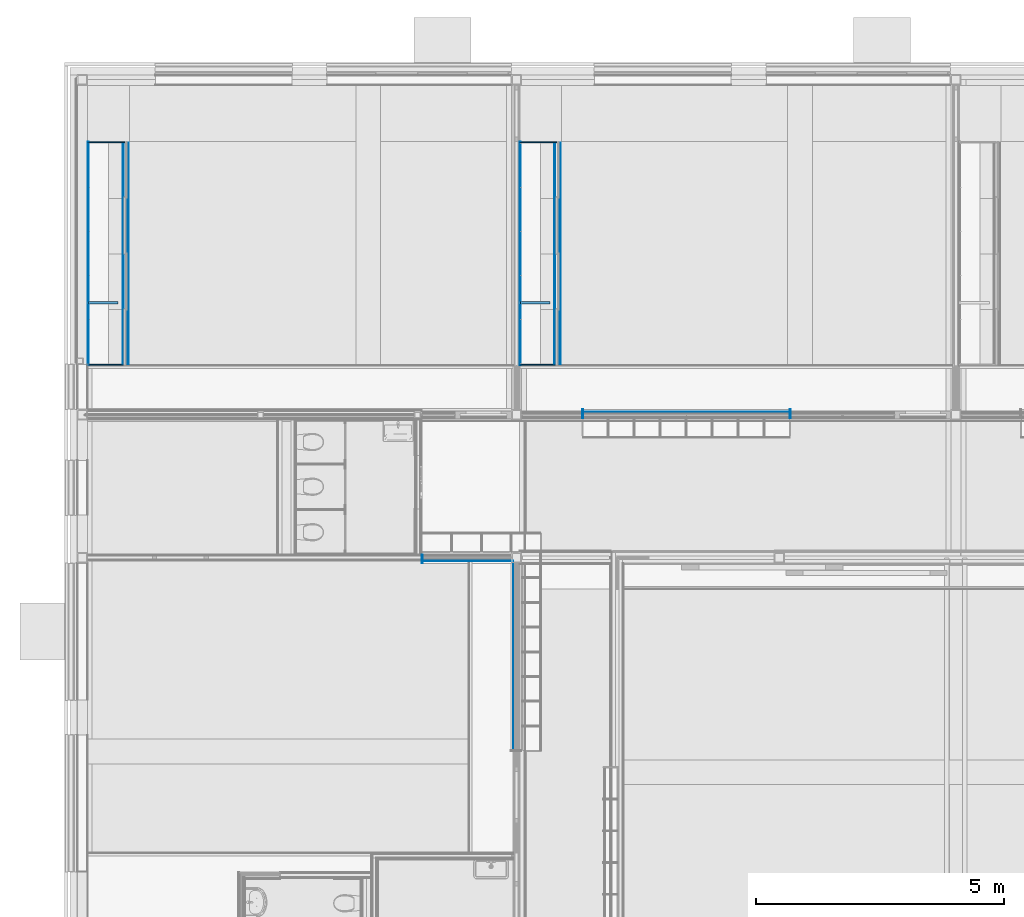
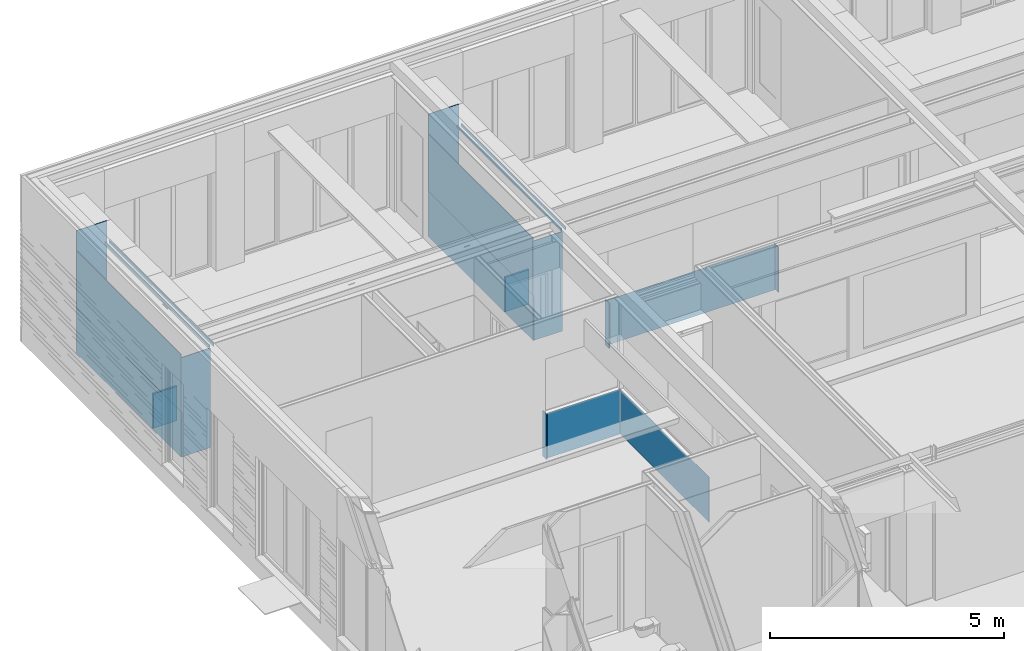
# One storey, part 25 of 165: 20 walls.
"""IFC2X3 building model written with IfcOpenShell, lengths in millimetres."""

import ifcopenshell
import ifcopenshell.guid

model = None  # the IFC model being written
_history = None  # IfcOwnerHistory: only IFC2X3 demands one
_inside = {}  # id of a spatial element -> (the spatial element, [elements in it])
_under = {}  # id of a project, library or spatial element -> (it, [spatial elements below it])
_declared = {}  # id of a project -> (the project, [libraries it declares])
_typed = {}  # id of a type object -> (the type object, [elements of that type])
_made_of = {}  # id of a material, layer set ... -> (it, [elements and type objects made of it])


def new_model(schema):
    """Start an empty IFC model of exactly this schema.

    Asked for "IFC4X3", IfcOpenShell would pick the latest addendum, in which some entities
    have other attributes; the version numbers below select the first issue.
    IFC2X3 requires an IfcOwnerHistory on every rooted entity: one is made here for all.
    """
    global model, _history
    if schema == "IFC4X3":
        model = ifcopenshell.file(schema_version=(4, 3, 0, 0))
    else:
        model = ifcopenshell.file(schema=schema)
    _inside.clear()
    _under.clear()
    _declared.clear()
    _typed.clear()
    _made_of.clear()
    _history = None
    if model.schema == "IFC2X3":
        org = make("IfcOrganization", Name="unknown")
        user = make(
            "IfcPersonAndOrganization",
            ThePerson=make("IfcPerson", FamilyName="unknown"),
            TheOrganization=org,
        )
        app = make(
            "IfcApplication",
            ApplicationDeveloper=org,
            Version="unknown",
            ApplicationFullName="unknown",
            ApplicationIdentifier="unknown",
        )
        _history = make(
            "IfcOwnerHistory",
            OwningUser=user,
            OwningApplication=app,
            ChangeAction="ADDED",
            CreationDate=0,
        )
    return model


def make(cls, **values):
    """One entity of the class cls with the attributes given. An attribute that is None is left unset."""
    return model.create_entity(
        cls, **{name: value for name, value in values.items() if value is not None}
    )


def entity(cls, *values):
    """Any entity or typed value of the class cls, its attributes in the order of the schema. None: left unset."""
    e = model.create_entity(cls)
    for i, value in enumerate(values):
        if value is not None:
            e[i] = value
    return e


def rooted(cls, **values):
    """An entity with a GlobalId (a new one), such as an element, a storey or a relation."""
    return make(cls, GlobalId=ifcopenshell.guid.new(), OwnerHistory=_history, **values)


def si_unit(unit_type, name, prefix=None):
    """IfcSIUnit, for example si_unit("LENGTHUNIT", "METRE", prefix="MILLI")."""
    return make("IfcSIUnit", UnitType=unit_type, Prefix=prefix, Name=name)


def converted_unit(unit_type, name, factor, base, dimensions=None, offset=None):
    """IfcConversionBasedUnit, such as the inch: factor (a typed value) times the base unit."""
    return make(
        "IfcConversionBasedUnit"
        if offset is None
        else "IfcConversionBasedUnitWithOffset",
        ConversionOffset=offset,
        Dimensions=None
        if dimensions is None
        else entity("IfcDimensionalExponents", *dimensions),
        UnitType=unit_type,
        Name=name,
        ConversionFactor=make(
            "IfcMeasureWithUnit", ValueComponent=factor, UnitComponent=base
        ),
    )


def derived_unit(unit_type, elements):
    """IfcDerivedUnit: a product of units, each with its exponent."""
    return make(
        "IfcDerivedUnit",
        Elements=[
            make("IfcDerivedUnitElement", Unit=unit, Exponent=power)
            for unit, power in elements
        ],
        UnitType=unit_type,
    )


def money_unit(currency):
    """IfcMonetaryUnit."""
    return make("IfcMonetaryUnit", Currency=currency)


def assignment(units):
    """IfcUnitAssignment: the units of a project."""
    return None if units is None else make("IfcUnitAssignment", Units=units)


def point(xyz):
    """IfcCartesianPoint."""
    return None if xyz is None else make("IfcCartesianPoint", Coordinates=xyz)


def direction(xyz):
    """IfcDirection."""
    return None if xyz is None else make("IfcDirection", DirectionRatios=xyz)


def frame(location, z_axis=None, x_axis=None):
    """IfcAxis2Placement3D, a coordinate frame: its origin and axes. An axis left out is left unset."""
    return make(
        "IfcAxis2Placement3D",
        Location=point(location),
        Axis=direction(z_axis),
        RefDirection=direction(x_axis),
    )


def origin_with_axes():
    """The frame at (0, 0, 0) with the z axis (0, 0, 1) and the x axis (1, 0, 0) written out."""
    return frame((0.0, 0.0, 0.0), z_axis=(0.0, 0.0, 1.0), x_axis=(1.0, 0.0, 0.0))


def place(relative_to, where):
    """IfcLocalPlacement: puts the frame where relative to a parent placement (None: the world)."""
    return make(
        "IfcLocalPlacement", PlacementRelTo=relative_to, RelativePlacement=where
    )


def context(
    kind, dimensions, precision=None, world=None, true_north=None, identifier=None
):
    """IfcGeometricRepresentationContext, for example the 3D "Model" context."""
    return make(
        "IfcGeometricRepresentationContext",
        ContextIdentifier=identifier,
        ContextType=kind,
        CoordinateSpaceDimension=dimensions,
        Precision=precision,
        WorldCoordinateSystem=world,
        TrueNorth=true_north,
    )


def subcontext(parent, identifier, kind, view, scale=None):
    """IfcGeometricRepresentationSubContext, for example "Body" below "Model"."""
    return make(
        "IfcGeometricRepresentationSubContext",
        ContextIdentifier=identifier,
        ContextType=kind,
        ParentContext=parent,
        TargetScale=scale,
        TargetView=view,
    )


def project(units=None, contexts=None):
    """IfcProject with its units and contexts."""
    return rooted(
        "IfcProject",
        Name="project",
        RepresentationContexts=contexts,
        UnitsInContext=assignment(units),
    )


def spatial(cls, under=None, at=None, **own):
    """A site, building, storey or space (cls), placed at a placement, below another one or the project."""
    s = rooted(cls, ObjectPlacement=at, **own)
    if under is not None:
        _under.setdefault(under.id(), (under, []))[1].append(s)
    return s


def faces_of(points, faces, orient=None, outer=None):
    """IfcFace entities. A face is a list of loops; a loop is a list of indices into points, from 0.

    orient and outer hold one flag for each loop. By default every Orientation is true, the
    first loop of a face is its IfcFaceOuterBound and the others are IfcFaceBound.
    """
    made = []
    for i, loops in enumerate(faces):
        bounds = []
        for j, loop in enumerate(loops):
            is_outer = j == 0 if outer is None else outer[i][j]
            bounds.append(
                make(
                    "IfcFaceOuterBound" if is_outer else "IfcFaceBound",
                    Bound=make("IfcPolyLoop", Polygon=[points[k] for k in loop]),
                    Orientation=True if orient is None else orient[i][j],
                )
            )
        made.append(make("IfcFace", Bounds=bounds))
    return made


def faceted_brep(points, faces, orient=None, outer=None, voids=None):
    """IfcFacetedBrep: a solid bounded by flat faces; with voids (closed shells), ...WithVoids."""
    shared = [point(p) for p in points]
    hull = make("IfcClosedShell", CfsFaces=faces_of(shared, faces, orient, outer))
    if voids is None:
        return make("IfcFacetedBrep", Outer=hull)
    return make(
        "IfcFacetedBrepWithVoids",
        Outer=hull,
        Voids=[
            make(cls, CfsFaces=faces_of(shared, fs, o, b)) for cls, fs, o, b in voids
        ],
    )


def shape(context_of_items, identifier, shape_type, items):
    """IfcShapeRepresentation: the items that make up one representation, for example the "Body"."""
    return make(
        "IfcShapeRepresentation",
        ContextOfItems=context_of_items,
        RepresentationIdentifier=identifier,
        RepresentationType=shape_type,
        Items=items,
    )


def material(Name=None, Category=None):
    """IfcMaterial."""
    return make("IfcMaterial", Name=Name, Category=Category)


def made_of(thing, what):
    """Note that an element or type object is made of a material, layer set ...; save() writes the relation."""
    if what is not None:
        _made_of.setdefault(what.id(), (what, []))[1].append(thing)
    return thing


def type_object(cls, material=None, **own):
    """A type object (cls), such as IfcWallType, which elements share."""
    return made_of(rooted(cls, **own), material)


def element(
    cls,
    number,
    at=None,
    inside=None,
    cuts=None,
    type_object=None,
    material=None,
    context=None,
    identifier="Body",
    shape_type=None,
    held_by="IfcProductDefinitionShape",
    body=None,
    shapes=None,
    **own,
):
    """One element of the class cls, such as IfcWall. Its Tag is "e" and its number.

    at: its placement. inside: the storey or other place that contains it. cuts: it is an
    opening in that element (IfcRelVoidsElement). A single representation is given by context,
    identifier, shape_type and body (its items); several are given by shapes. held_by: the class
    of the entity that holds the representations. save() writes the other relations.
    """
    e = rooted(cls, Tag="e%d" % number, ObjectPlacement=at, **own)
    if body is not None:
        shapes = [shape(context, identifier, shape_type, body)]
    if shapes is not None:
        e.Representation = make(held_by, Representations=shapes)
    if inside is not None:
        _inside.setdefault(inside.id(), (inside, []))[1].append(e)
    if cuts is not None:
        rooted(
            "IfcRelVoidsElement", RelatingBuildingElement=cuts, RelatedOpeningElement=e
        )
    if type_object is not None:
        _typed.setdefault(type_object.id(), (type_object, []))[1].append(e)
    return made_of(e, material)


def aggregate(whole, parts):
    """IfcRelAggregates: a whole, such as a stair, and the parts it consists of."""
    return rooted("IfcRelAggregates", RelatingObject=whole, RelatedObjects=parts)


def save(model, path):
    """Write the relations noted so far, then the file.

    IfcRelAggregates (storeys below a building ...), IfcRelContainedInSpatialStructure (elements
    in a storey), IfcRelDefinesByType, IfcRelAssociatesMaterial and IfcRelDeclares: one each for
    every whole, place, type object, material and project.
    """
    for whole, parts in _under.values():
        aggregate(whole, parts)
    for where, things in _inside.values():
        rooted(
            "IfcRelContainedInSpatialStructure",
            RelatedElements=things,
            RelatingStructure=where,
        )
    for kind, things in _typed.values():
        rooted("IfcRelDefinesByType", RelatedObjects=things, RelatingType=kind)
    for what, things in _made_of.values():
        rooted("IfcRelAssociatesMaterial", RelatedObjects=things, RelatingMaterial=what)
    for by, libraries in _declared.values():
        rooted("IfcRelDeclares", RelatingContext=by, RelatedDefinitions=libraries)
    model.write(path)


model = new_model("IFC2X3")

# Units and contexts
model_context = context("Model", 3, precision=0.01, world=origin_with_axes(), true_north=direction((0.0, 1.0)))
body_context = subcontext(model_context, "Body", "Model", "MODEL_VIEW")
ifc_project = project(units=[si_unit("LENGTHUNIT", "METRE", prefix="MILLI"), si_unit("AREAUNIT", "SQUARE_METRE"), si_unit("VOLUMEUNIT", "CUBIC_METRE"), converted_unit("PLANEANGLEUNIT", "DEGREE", entity("IfcPlaneAngleMeasure", 0.0174532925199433), si_unit("PLANEANGLEUNIT", "RADIAN"), dimensions=[0, 0, 0, 0, 0, 0, 0]), money_unit("EUR"), converted_unit("TIMEUNIT", "Year", entity("IfcTimeMeasure", 31556926.0), si_unit("TIMEUNIT", "SECOND"), dimensions=[0, 0, 1, 0, 0, 0, 0]), si_unit("MASSUNIT", "GRAM", prefix="KILO"), si_unit("THERMODYNAMICTEMPERATUREUNIT", "DEGREE_CELSIUS"), si_unit("LUMINOUSINTENSITYUNIT", "LUMEN"), si_unit("ENERGYUNIT", "JOULE", prefix="MEGA"), derived_unit("THERMALCONDUCTANCEUNIT", [(si_unit("POWERUNIT", "WATT"), 1), (si_unit("LENGTHUNIT", "METRE"), -1), (si_unit("THERMODYNAMICTEMPERATUREUNIT", "KELVIN"), -1)]), derived_unit("SPECIFICHEATCAPACITYUNIT", [(si_unit("ENERGYUNIT", "JOULE"), 1), (si_unit("MASSUNIT", "GRAM", prefix="KILO"), -1), (si_unit("THERMODYNAMICTEMPERATUREUNIT", "KELVIN"), -1)]), derived_unit("MASSDENSITYUNIT", [(si_unit("MASSUNIT", "GRAM", prefix="KILO"), 1), (si_unit("VOLUMEUNIT", "CUBIC_METRE"), -1)])], contexts=[model_context])

# Site, building, storey
site_placement = place(None, origin_with_axes())
site = spatial("IfcSite", under=ifc_project, at=site_placement, Name="Site", CompositionType="ELEMENT")
building_placement = place(site_placement, origin_with_axes())
building = spatial("IfcBuilding", under=site, at=building_placement, Name="Naam gebouw", CompositionType="ELEMENT")
storey_placement = place(building_placement, origin_with_axes())
storey = spatial("IfcBuildingStorey", under=building, at=storey_placement, Name="Begane grond", CompositionType="ELEMENT", Elevation=0.0)

# Walls
ifc_material_1 = material(Name="Kurk")
wall_type_1 = type_object("IfcWallType", Name="Kurk 6", PredefinedType="NOTDEFINED")
wall_1_placement = place(storey_placement, frame((6960.000053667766, 19387.49979215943, 0.0), z_axis=(0.0, 0.0, 1.0), x_axis=(1.0, 0.0, 0.0)))
element("IfcWall", 1, at=wall_1_placement, inside=storey, type_object=wall_type_1, material=ifc_material_1, Name="21_Wand-x", context=body_context, shape_type="Brep", body=[
    faceted_brep([(1821.500260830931, -5.999999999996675, 1180.0), (1821.500260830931, 0.0, 1180.0), (0.0, 0.0, 1180.0), (0.0, -6.000000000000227, 1180.0), (1821.500260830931, -5.999999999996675, 0.0), (1821.500260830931, 0.0, 0.0), (0.0, 0.0, 0.0), (0.0, -6.000000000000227, 0.0)], [[[0, 1, 2, 3]], [[1, 0, 4, 5]], [[1, 5, 6, 2]], [[7, 3, 2, 6]], [[4, 0, 3, 7]], [[5, 4, 7, 6]]]),
])
wall_2_placement = place(storey_placement, frame((8787.500314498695, 15569.99580850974, 0.0), z_axis=(0.0, 0.0, 1.0), x_axis=(0.0, 1.0, 0.0)))
element("IfcWall", 2, at=wall_2_placement, inside=storey, type_object=wall_type_1, material=ifc_material_1, Name="21_Wand-x", context=body_context, shape_type="Brep", body=[
    faceted_brep([(3817.503983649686, 6.000000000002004, 0.0), (3817.503983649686, 0.0, 0.0), (0.0, 0.0, 0.0), (0.0, 6.000000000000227, 0.0), (3817.503983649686, 6.000000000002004, 1180.0), (3817.503983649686, 0.0, 1180.0), (0.0, 0.0, 1180.0), (0.0, 6.000000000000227, 1180.0)], [[[0, 1, 2, 3]], [[1, 0, 4, 5]], [[1, 5, 6, 2]], [[7, 3, 2, 6]], [[4, 0, 3, 7]], [[5, 4, 7, 6]]]),
])
wall_3_placement = place(storey_placement, frame((10190.00009530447, 22387.47926947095, 0.0), z_axis=(0.0, 0.0, 1.0), x_axis=(1.0, 0.0, 0.0)))
element("IfcWall", 3, at=wall_3_placement, inside=storey, type_object=wall_type_1, material=ifc_material_1, Name="21_Wand-x", context=body_context, shape_type="Brep", body=[
    faceted_brep([(0.0, 6.000000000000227, 0.0), (4159.999904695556, 6.000000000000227, 0.0), (4159.999904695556, 0.0, 0.0), (0.0, 0.0, 0.0), (0.0, 6.000000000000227, 1180.0), (4159.999904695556, 6.000000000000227, 1180.0), (4159.999904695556, 0.0, 1180.0), (0.0, 0.0, 1180.0)], [[[0, 1, 2, 3]], [[4, 5, 1, 0]], [[2, 1, 5, 6]], [[3, 2, 6, 7]], [[4, 0, 3, 7]], [[7, 6, 5, 4]]]),
])
ifc_material_2 = material(Name="Hout - Multiplex")
wall_type_2 = type_object("IfcWallType", Name="Hout - Multiplex 20", PredefinedType="NOTDEFINED")
wall_4_placement = place(storey_placement, frame((6939.999720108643, 19512.49981121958, 0.0), z_axis=(0.0, 0.0, 1.0), x_axis=(1.906052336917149e-06, -0.9999999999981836, 0.0)))
element("IfcWall", 4, at=wall_4_placement, inside=storey, type_object=wall_type_2, material=ifc_material_2, Name="21_Wand-x", context=body_context, shape_type="Brep", body=[
    faceted_brep([(0.0, 0.0, 0.0), (6.359357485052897e-10, 0.0003335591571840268, 1180.0), (0.0, 20.00000000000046, 1180.0), (0.0, 20.00000000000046, 0.0), (174.9999999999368, 0.0, 0.0), (174.9999999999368, 0.0, 1180.0), (175.0000381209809, 19.99999999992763, 1180.0), (174.9999999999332, 19.99999999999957, 0.0)], [[[0, 1, 2, 3]], [[4, 5, 1, 0]], [[5, 6, 2, 1]], [[3, 2, 6, 7]], [[0, 3, 7, 4]], [[7, 6, 5, 4]]]),
])
wall_5_placement = place(storey_placement, frame((14370.00000000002, 22262.47925041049, 0.0), z_axis=(0.0, 0.0, 1.0), x_axis=(0.0, 1.0, 0.0)))
element("IfcWall", 5, at=wall_5_placement, inside=storey, type_object=wall_type_2, material=ifc_material_2, Name="21_Wand-x", context=body_context, shape_type="Brep", body=[
    faceted_brep([(174.9999999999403, 19.99999999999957, 0.0), (174.9999999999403, 19.99999999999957, 1180.000000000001), (174.9999999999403, 0.0, 1180.000000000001), (174.9999999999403, 0.0, 0.0), (0.0, 19.99999999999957, 0.0), (0.0, 19.99999999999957, 1180.000000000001), (0.0, 0.0, 1180.000000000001), (0.0, 0.0, 0.0)], [[[0, 1, 2, 3]], [[4, 5, 1, 0]], [[5, 6, 2, 1]], [[3, 2, 6, 7]], [[7, 4, 0, 3]], [[7, 6, 5, 4]]]),
])
wall_6_placement = place(storey_placement, frame((10169.99976174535, 22262.48325312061, 0.0), z_axis=(0.0, 0.0, 1.0), x_axis=(1.906052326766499e-06, 0.9999999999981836, 0.0)))
element("IfcWall", 6, at=wall_6_placement, inside=storey, type_object=wall_type_2, material=ifc_material_2, Name="21_Wand-x", context=body_context, shape_type="Brep", body=[
    faceted_brep([(174.9999999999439, 0.0, 0.0), (174.9959972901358, -7.629452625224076e-09, 1180.000000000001), (174.9960354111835, -20.00000000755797, 1180.000000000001), (174.9999999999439, -20.00000000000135, 0.0), (0.0, 0.0, 0.0), (-0.00400270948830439, -0.0003335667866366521, 1180.000000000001), (-0.003964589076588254, -20.00000000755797, 1180.000000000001), (0.0, -20.00000000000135, 0.0)], [[[0, 1, 2, 3]], [[4, 5, 1, 0]], [[5, 6, 2, 1]], [[3, 2, 6, 7]], [[7, 4, 0, 3]], [[7, 6, 5, 4]]]),
])
wall_7_placement = place(storey_placement, frame((8912.500000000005, 23347.99984707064, 2.0), z_axis=(0.0, 0.0, 1.0), x_axis=(0.0, 1.0, 0.0)))
element("IfcWall", 7, at=wall_7_placement, inside=storey, type_object=wall_type_2, material=ifc_material_2, Name="21_Wand-x", context=body_context, shape_type="Brep", body=[
    faceted_brep([(4480.0, -19.99999999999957, 1180.0), (4480.0, 0.0, 1180.0), (-19.99999999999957, 0.0, 1180.0), (-19.99999999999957, -19.99999999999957, 1180.0), (4480.0, -19.99999999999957, 0.0), (4480.0, 0.0, 0.0), (-19.99999999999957, 0.0, 0.0), (-19.99999999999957, -19.99999999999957, 0.0)], [[[0, 1, 2, 3]], [[1, 0, 4, 5]], [[1, 5, 6, 2]], [[7, 3, 2, 6]], [[4, 0, 3, 7]], [[5, 4, 7, 6]]]),
])
wall_8_placement = place(storey_placement, frame((9662.500000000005, 27807.99984707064, 0.0), z_axis=(0.0, 0.0, 1.0), x_axis=(-1.0, 0.0, 0.0)))
element("IfcWall", 8, at=wall_8_placement, inside=storey, type_object=wall_type_2, material=ifc_material_2, Name="21_Wand-x", context=body_context, shape_type="Brep", body=[
    faceted_brep([(750.0, -19.99999999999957, 0.0), (750.0, -19.99999999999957, 2.000000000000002), (730.0000000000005, -19.99999999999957, 2.000000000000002), (730.0000000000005, -19.99999999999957, 1182.0), (750.0, -19.99999999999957, 1182.0), (750.0, -19.99999999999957, 3200.0), (0.0, -19.99999999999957, 3200.0), (0.0, -19.99999999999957, 0.0), (750.0, 0.0, 0.0), (750.0, 0.0, 2.000000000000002), (730.0000000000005, 0.0, 2.000000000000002), (730.0000000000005, 0.0, 1182.0), (750.0, 0.0, 1182.0), (750.0, 0.0, 3200.0), (0.0, 0.0, 3200.0), (0.0, 0.0, 0.0)], [[[0, 1, 2, 3, 4, 5, 6, 7]], [[8, 9, 1, 0]], [[10, 2, 1, 9]], [[11, 3, 2, 10]], [[12, 4, 3, 11]], [[5, 4, 12, 13]], [[14, 6, 5, 13]], [[14, 15, 7, 6]], [[7, 15, 8, 0]], [[11, 10, 9, 8, 15, 14, 13, 12]]]),
])
wall_9_placement = place(storey_placement, frame((9632.500000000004, 23347.99984707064, 0.0), z_axis=(0.0, 0.0, 1.0), x_axis=(-1.0, 0.0, 0.0)))
element("IfcWall", 9, at=wall_9_placement, inside=storey, type_object=wall_type_2, material=ifc_material_2, Name="21_Wand-x", context=body_context, shape_type="Brep", body=[
    faceted_brep([(719.9999999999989, 0.0, 0.0), (719.9999999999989, 0.0, 2.000000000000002), (699.9999999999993, 0.0, 2.000000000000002), (699.9999999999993, 0.0, 1182.0), (719.9999999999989, 0.0, 1182.0), (719.9999999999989, 0.0, 2600.0), (0.0, 0.0, 2600.0), (0.0, 0.0, 0.0), (719.9999999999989, 19.99999999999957, 0.0), (719.9999999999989, 19.99999999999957, 2.000000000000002), (699.9999999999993, 19.99999999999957, 2.000000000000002), (699.9999999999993, 19.99999999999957, 1182.0), (719.9999999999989, 19.99999999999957, 1182.0), (719.9999999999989, 19.99999999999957, 2600.0), (0.0, 19.99999999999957, 2600.0), (0.0, 19.99999999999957, 0.0)], [[[0, 1, 2, 3, 4, 5, 6, 7]], [[8, 9, 1, 0]], [[10, 2, 1, 9]], [[11, 3, 2, 10]], [[12, 4, 3, 11]], [[5, 4, 12, 13]], [[14, 6, 5, 13]], [[7, 6, 14, 15]], [[7, 15, 8, 0]], [[11, 10, 9, 8, 15, 14, 13, 12]]]),
])
wall_10_placement = place(storey_placement, frame((9719.500000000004, 23347.99984707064, 2600.0), z_axis=(0.0, 0.0, 1.0), x_axis=(0.0, 1.0, 0.0)))
element("IfcWall", 10, at=wall_10_placement, inside=storey, type_object=wall_type_2, material=ifc_material_2, Name="21_Wand-x", context=body_context, shape_type="Brep", body=[
    faceted_brep([(0.0, -19.99999999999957, 69.99999999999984), (4460.000000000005, -19.99999999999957, 69.99999999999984), (4460.000000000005, 0.0, 69.99999999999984), (0.0, 0.0, 69.99999999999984), (0.0, -19.99999999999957, 0.0), (4460.000000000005, -19.99999999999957, 0.0), (4460.000000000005, 0.0, 0.0), (0.0, 0.0, 0.0)], [[[0, 1, 2, 3]], [[4, 5, 1, 0]], [[2, 1, 5, 6]], [[3, 2, 6, 7]], [[4, 0, 3, 7]], [[7, 6, 5, 4]]]),
])
wall_11_placement = place(storey_placement, frame((9614.500000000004, 23347.99984707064, 2600.0), z_axis=(0.0, 0.0, 1.0), x_axis=(0.0, 1.0, 0.0)))
element("IfcWall", 11, at=wall_11_placement, inside=storey, type_object=wall_type_2, material=ifc_material_2, Name="21_Wand-x", context=body_context, shape_type="Brep", body=[
    faceted_brep([(4460.000000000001, -19.99999999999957, 69.99999999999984), (4460.000000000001, 0.0, 69.99999999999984), (0.0, 0.0, 69.99999999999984), (0.0, -19.99999999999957, 69.99999999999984), (4460.000000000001, -19.99999999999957, 0.0), (4460.000000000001, 0.0, 0.0), (0.0, 0.0, 0.0), (0.0, -19.99999999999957, 0.0)], [[[0, 1, 2, 3]], [[1, 0, 4, 5]], [[1, 5, 6, 2]], [[7, 3, 2, 6]], [[4, 0, 3, 7]], [[5, 4, 7, 6]]]),
])
wall_12_placement = place(storey_placement, frame((8914.500000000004, 23347.99984707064, 1182.0), z_axis=(0.0, 0.0, 1.0), x_axis=(0.0, 1.0, 0.0)))
element("IfcWall", 12, at=wall_12_placement, inside=storey, type_object=wall_type_2, material=ifc_material_2, Name="21_Wand-x", context=body_context, shape_type="Brep", body=[
    faceted_brep([(0.0, 0.0, 1488.0), (0.0, 0.0, 1418.0), (0.0, -19.99999999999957, 1418.0), (0.0, -19.99999999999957, 1488.0), (4460.000000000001, 0.0, 0.0), (0.0, 0.0, 0.0), (4460.000000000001, 0.0, 1488.0), (0.0, -19.99999999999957, 0.0), (4460.000000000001, -19.99999999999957, 0.0), (4460.000000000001, -19.99999999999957, 1488.0)], [[[0, 1, 2, 3]], [[4, 5, 1, 0, 6]], [[5, 7, 2, 1]], [[3, 2, 7, 8, 9]], [[9, 6, 0, 3]], [[8, 7, 5, 4]], [[6, 9, 8, 4]]]),
])
wall_13_placement = place(storey_placement, frame((214.0000000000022, 23347.99984707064, 2.0), z_axis=(0.0, 0.0, 1.0), x_axis=(0.0, 1.0, 0.0)))
element("IfcWall", 13, at=wall_13_placement, inside=storey, type_object=wall_type_2, material=ifc_material_2, Name="21_Wand-x", context=body_context, shape_type="Brep", body=[
    faceted_brep([(4480.0, -19.99999999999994, 1180.0), (4480.0, 0.0, 1180.0), (-19.99999999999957, 0.0, 1180.0), (-19.99999999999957, -19.99999999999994, 1180.0), (4480.0, -19.99999999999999, 0.0), (4480.0, 0.0, 0.0), (-19.99999999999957, 0.0, 0.0), (-19.99999999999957, -19.99999999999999, 0.0)], [[[0, 1, 2, 3]], [[1, 0, 4, 5]], [[1, 5, 6, 2]], [[7, 3, 2, 6]], [[4, 0, 3, 7]], [[5, 4, 7, 6]]]),
])
wall_14_placement = place(storey_placement, frame((964.0000000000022, 27807.99984707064, 0.0), z_axis=(0.0, 0.0, 1.0), x_axis=(-1.0, 0.0, 0.0)))
element("IfcWall", 14, at=wall_14_placement, inside=storey, type_object=wall_type_2, material=ifc_material_2, Name="21_Wand-x", context=body_context, shape_type="Brep", body=[
    faceted_brep([(750.0, -19.99999999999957, 0.0), (750.0, -19.99999999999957, 2.000000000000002), (730.0, -19.99999999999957, 2.000000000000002), (730.0000000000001, -19.99999999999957, 1182.0), (750.0000000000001, -19.99999999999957, 1182.0), (750.0, -19.99999999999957, 3200.0), (0.0, -19.99999999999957, 3200.0), (0.0, -19.99999999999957, 0.0), (750.0, 0.0, 0.0), (750.0, 0.0, 2.000000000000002), (730.0, 0.0, 2.000000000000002), (730.0000000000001, 0.0, 1182.0), (750.0000000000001, 0.0, 1182.0), (750.0, 0.0, 3200.0), (0.0, 0.0, 3200.0), (0.0, 0.0, 0.0)], [[[0, 1, 2, 3, 4, 5, 6, 7]], [[8, 9, 1, 0]], [[10, 2, 1, 9]], [[11, 3, 2, 10]], [[12, 4, 3, 11]], [[5, 4, 12, 13]], [[14, 6, 5, 13]], [[14, 15, 7, 6]], [[7, 15, 8, 0]], [[11, 10, 9, 8, 15, 14, 13, 12]]]),
])
wall_15_placement = place(storey_placement, frame((934.000000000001, 23347.99984707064, 0.0), z_axis=(0.0, 0.0, 1.0), x_axis=(-1.0, 0.0, 0.0)))
element("IfcWall", 15, at=wall_15_placement, inside=storey, type_object=wall_type_2, material=ifc_material_2, Name="21_Wand-x", context=body_context, shape_type="Brep", body=[
    faceted_brep([(719.9999999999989, 0.0, 0.0), (719.9999999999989, 0.0, 2.000000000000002), (699.9999999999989, 0.0, 2.000000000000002), (699.999999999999, 0.0, 1182.0), (719.999999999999, 0.0, 1182.0), (719.9999999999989, 0.0, 2600.0), (0.0, 0.0, 2600.0), (0.0, 0.0, 0.0), (719.9999999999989, 19.99999999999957, 0.0), (719.9999999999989, 19.99999999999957, 2.000000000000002), (699.9999999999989, 19.99999999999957, 2.000000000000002), (699.999999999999, 19.99999999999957, 1182.0), (719.999999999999, 19.99999999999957, 1182.0), (719.9999999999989, 19.99999999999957, 2600.0), (0.0, 19.99999999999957, 2600.0), (0.0, 19.99999999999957, 0.0)], [[[0, 1, 2, 3, 4, 5, 6, 7]], [[8, 9, 1, 0]], [[10, 2, 1, 9]], [[11, 3, 2, 10]], [[12, 4, 3, 11]], [[5, 4, 12, 13]], [[14, 6, 5, 13]], [[7, 6, 14, 15]], [[7, 15, 8, 0]], [[11, 10, 9, 8, 15, 14, 13, 12]]]),
])
wall_16_placement = place(storey_placement, frame((1021.000000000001, 23347.99984707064, 2600.0), z_axis=(0.0, 0.0, 1.0), x_axis=(0.0, 1.0, 0.0)))
element("IfcWall", 16, at=wall_16_placement, inside=storey, type_object=wall_type_2, material=ifc_material_2, Name="21_Wand-x", context=body_context, shape_type="Brep", body=[
    faceted_brep([(0.0, -20.00000000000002, 69.99999999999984), (4460.000000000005, -20.00000000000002, 69.99999999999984), (4460.000000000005, 0.0, 69.99999999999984), (0.0, 0.0, 69.99999999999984), (0.0, -20.00000000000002, 0.0), (4460.000000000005, -20.00000000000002, 0.0), (4460.000000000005, 0.0, 0.0), (0.0, 0.0, 0.0)], [[[0, 1, 2, 3]], [[4, 5, 1, 0]], [[2, 1, 5, 6]], [[3, 2, 6, 7]], [[4, 0, 3, 7]], [[7, 6, 5, 4]]]),
])
wall_17_placement = place(storey_placement, frame((916.0000000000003, 23347.99984707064, 2600.0), z_axis=(0.0, 0.0, 1.0), x_axis=(0.0, 1.0, 0.0)))
element("IfcWall", 17, at=wall_17_placement, inside=storey, type_object=wall_type_2, material=ifc_material_2, Name="21_Wand-x", context=body_context, shape_type="Brep", body=[
    faceted_brep([(4460.000000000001, -20.00000000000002, 69.99999999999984), (4460.000000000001, 0.0, 69.99999999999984), (0.0, 0.0, 69.99999999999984), (0.0, -20.00000000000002, 69.99999999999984), (4460.000000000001, -20.00000000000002, 0.0), (4460.000000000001, 0.0, 0.0), (0.0, 0.0, 0.0), (0.0, -20.00000000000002, 0.0)], [[[0, 1, 2, 3]], [[1, 0, 4, 5]], [[1, 5, 6, 2]], [[7, 3, 2, 6]], [[4, 0, 3, 7]], [[5, 4, 7, 6]]]),
])
wall_18_placement = place(storey_placement, frame((216.0000000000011, 23347.99984707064, 1182.0), z_axis=(0.0, 0.0, 1.0), x_axis=(0.0, 1.0, 0.0)))
element("IfcWall", 18, at=wall_18_placement, inside=storey, type_object=wall_type_2, material=ifc_material_2, Name="21_Wand-x", context=body_context, shape_type="Brep", body=[
    faceted_brep([(0.0, 0.0, 1488.0), (0.0, 0.0, 1418.0), (0.0, -20.00000000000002, 1418.0), (0.0, -20.00000000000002, 1488.0), (4460.000000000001, 0.0, 0.0), (0.0, 0.0, 0.0), (4460.000000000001, 0.0, 1488.0), (0.0, -20.00000000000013, 0.0), (4460.000000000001, -20.00000000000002, 0.0), (4460.000000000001, -19.99999999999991, 1488.0)], [[[0, 1, 2, 3]], [[4, 5, 1, 0, 6]], [[5, 7, 2, 1]], [[3, 2, 7, 8, 9]], [[9, 6, 0, 3]], [[8, 7, 5, 4]], [[6, 9, 8, 4]]]),
])
wall_type_3 = type_object("IfcWallType", Name="Hout - Multiplex 50", PredefinedType="NOTDEFINED")
wall_19_placement = place(storey_placement, frame((9523.500000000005, 24607.99984707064, 0.0), z_axis=(0.0, 0.0, 1.0), x_axis=(-1.0, 0.0, 0.0)))
element("IfcWall", 19, at=wall_19_placement, inside=storey, type_object=wall_type_3, material=ifc_material_2, Name="21_Wand-x", context=body_context, shape_type="Brep", body=[
    faceted_brep([(611.0000000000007, 0.0, 0.0), (611.0000000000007, 0.0, 2.000000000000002), (591.0000000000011, 0.0, 2.000000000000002), (591.0000000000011, 0.0, 900.0), (0.0, 0.0, 900.0), (0.0, 0.0, 0.0), (611.0000000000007, 50.00000000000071, 0.0), (611.0000000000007, 50.00000000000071, 2.000000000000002), (591.0000000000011, 50.00000000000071, 2.000000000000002), (591.0000000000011, 50.00000000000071, 900.0), (0.0, 50.00000000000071, 900.0), (0.0, 50.00000000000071, 0.0)], [[[0, 1, 2, 3, 4, 5]], [[6, 7, 1, 0]], [[8, 2, 1, 7]], [[8, 9, 3, 2]], [[4, 3, 9, 10]], [[5, 4, 10, 11]], [[5, 11, 6, 0]], [[9, 8, 7, 6, 11, 10]]]),
])
wall_20_placement = place(storey_placement, frame((825.0000000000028, 24607.99984707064, 0.0), z_axis=(0.0, 0.0, 1.0), x_axis=(-1.0, 0.0, 0.0)))
element("IfcWall", 20, at=wall_20_placement, inside=storey, type_object=wall_type_3, material=ifc_material_2, Name="21_Wand-x", context=body_context, shape_type="Brep", body=[
    faceted_brep([(611.0000000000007, 0.0, 0.0), (611.0000000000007, 0.0, 2.000000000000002), (591.0000000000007, 0.0, 2.000000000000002), (591.0000000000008, 0.0, 900.0), (0.0, 0.0, 900.0), (0.0, 0.0, 0.0), (611.0000000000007, 50.00000000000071, 0.0), (611.0000000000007, 50.00000000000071, 2.000000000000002), (591.0000000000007, 50.00000000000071, 2.000000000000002), (591.0000000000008, 50.00000000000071, 900.0), (0.0, 50.00000000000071, 900.0), (0.0, 50.00000000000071, 0.0)], [[[0, 1, 2, 3, 4, 5]], [[6, 7, 1, 0]], [[8, 2, 1, 7]], [[8, 9, 3, 2]], [[4, 3, 9, 10]], [[5, 4, 10, 11]], [[5, 11, 6, 0]], [[9, 8, 7, 6, 11, 10]]]),
])

save(model, "model.ifc")
